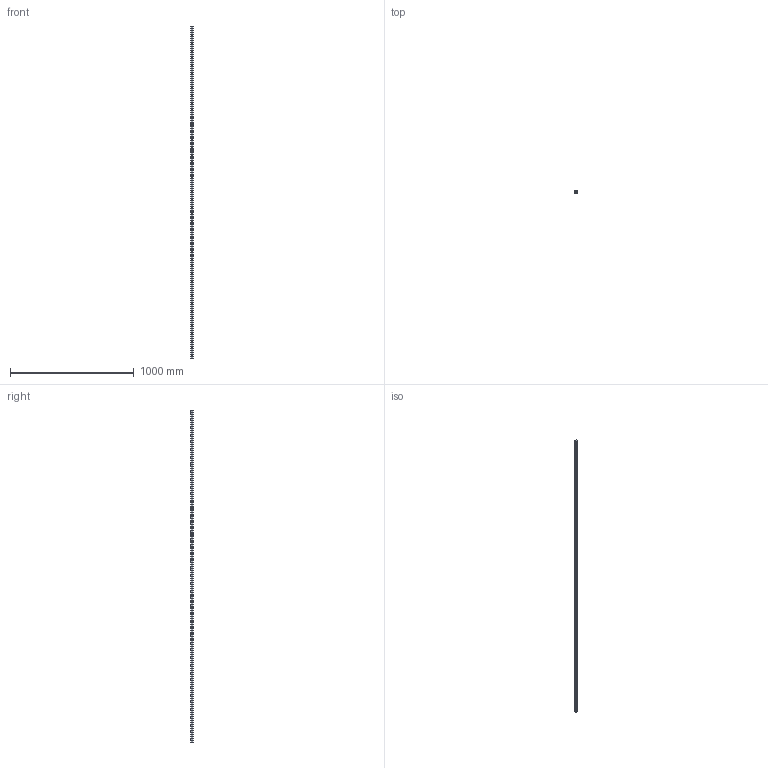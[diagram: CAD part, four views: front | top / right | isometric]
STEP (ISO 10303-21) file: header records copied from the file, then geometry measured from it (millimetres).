
FILE_DESCRIPTION (( 'STEP AP203' ), '1' );
FILE_NAME ('L1016.BL20-2680.step', '2019-06-12T11:53:57', ( '' ), ( '' ), 'SwSTEP 2.0', 'SolidWorks 2017', '' );
FILE_SCHEMA (( 'CONFIG_CONTROL_DESIGN' ));
Length unit declared in the file: millimetre
Products named in the file (1): L1016.BL20-2680
Bounding box: 20 x 16.3 x 2680 mm (x, y, z)
Volume: 744941.8 mm3; surface area: 215629.8 mm2
Topology: 1 solids, 1 shells, 251 faces, 612 edges, 408 vertices
Faces by surface type: cylinder 184, plane 67
Entity records: 7831 total; most frequent: DIRECTION 1484, CARTESIAN_POINT 1272, ORIENTED_EDGE 1224, AXIS2_PLACEMENT_3D 620, EDGE_CURVE 612, VERTEX_POINT 408, EDGE_LOOP 386, CIRCLE 368
